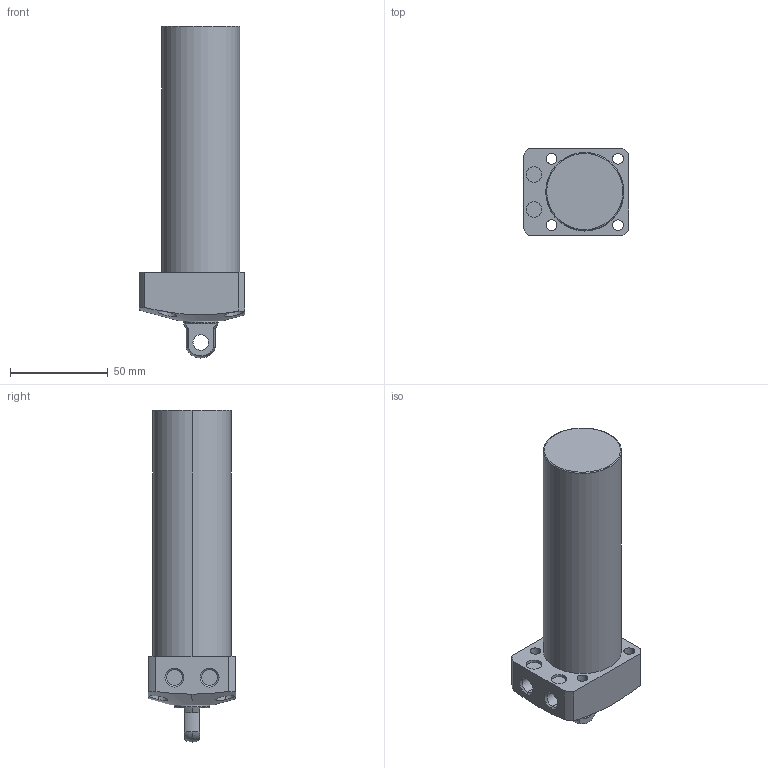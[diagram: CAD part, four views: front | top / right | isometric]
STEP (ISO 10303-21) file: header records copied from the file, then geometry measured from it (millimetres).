
FILE_DESCRIPTION (( 'STEP AP203' ), '1' );
FILE_NAME ('CLL040-CP-0100.STEP', '2017-05-17T08:02:55', ( '' ), ( '' ), 'SwSTEP 2.0', 'SolidWorks 2015', '' );
FILE_SCHEMA (( 'CONFIG_CONTROL_DESIGN' ));
Length unit declared in the file: millimetre
Products named in the file (1): CLL040-CP-0100
Bounding box: 54 x 45 x 170 mm (x, y, z)
Volume: 209591.5 mm3; surface area: 27846.9 mm2
Topology: 1 solids, 1 shells, 68 faces, 159 edges, 103 vertices
Faces by surface type: cylinder 35, plane 21, cone 8, sphere 2, torus 2
Entity records: 2372 total; most frequent: CARTESIAN_POINT 675, DIRECTION 357, ORIENTED_EDGE 318, EDGE_CURVE 159, AXIS2_PLACEMENT_3D 149, VERTEX_POINT 103, EDGE_LOOP 88, CIRCLE 80
